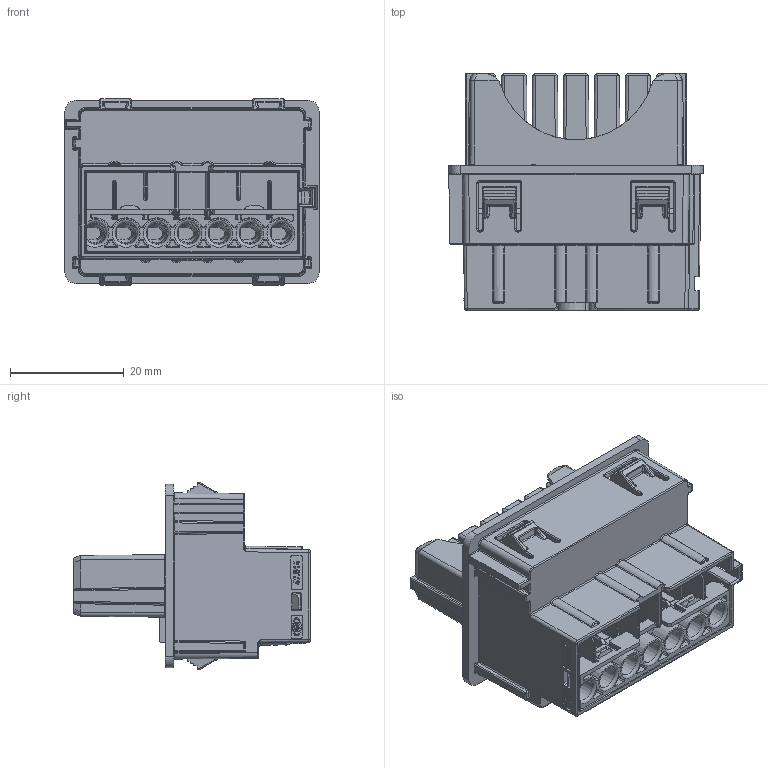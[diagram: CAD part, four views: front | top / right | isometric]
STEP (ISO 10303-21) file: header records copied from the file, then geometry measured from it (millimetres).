
FILE_DESCRIPTION(/* description */ ('Unknown'),/* implementation_level */ '2;1');
FILE_NAME(/* name */ '022-51D-03__20240409122847',/* time_stamp */ '2024-04-09T12:32:29+02:00',/* author */ ('Unknown'),/* organization */ ('Unknown'),/* preprocessor_version */ 'ST-DEVELOPER v16.7',/* originating_system */ 'Solid Edge',/* authorisation */ 'Unknown');
FILE_SCHEMA (('AUTOMOTIVE_DESIGN {1 0 10303 214 3 1 1}'));
Products named in the file (1): 022-51D-03
Bounding box: 44.8 x 41.6 x 32.9 mm (x, y, z)
Volume: 17415.9 mm3; surface area: 20739.3 mm2
Topology: 1 solids, 8 shells, 3012 faces, 7573 edges, 4393 vertices
Faces by surface type: cylinder 1082, plane 1059, bspline 508, sphere 227, cone 69, torus 67
Full cylindrical faces by diameter (mm): 4.63 x1, 5.21 x1
Entity records: 91932 total; most frequent: CARTESIAN_POINT 22747, ORIENTED_EDGE 14664, DIRECTION 14592, EDGE_CURVE 7332, AXIS2_PLACEMENT_3D 5453, VERTEX_POINT 4380, LINE 3686, VECTOR 3686
